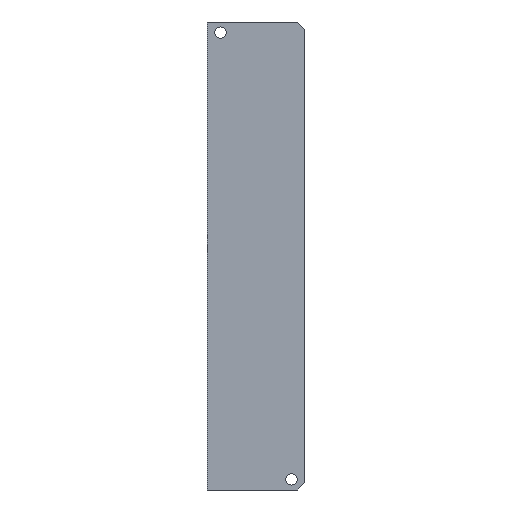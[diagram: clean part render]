
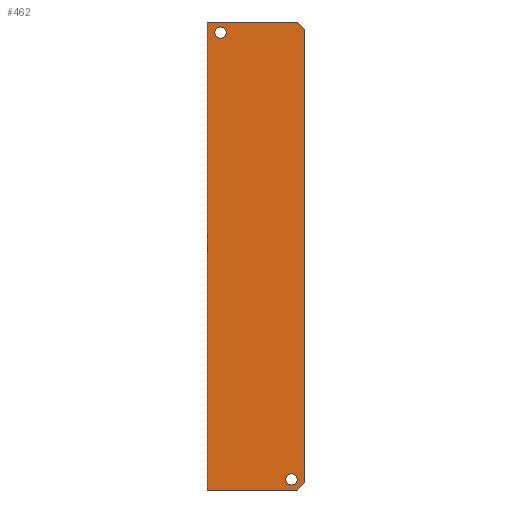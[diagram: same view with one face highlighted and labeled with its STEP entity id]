
A CAD part, front view. The second image highlights one B-rep face of the part: STEP entity #462.
In plain terms, the highlighted planar face has unit normal (0, -1, 0).
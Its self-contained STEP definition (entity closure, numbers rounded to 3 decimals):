
#10 = CIRCLE ( 'NONE', #263, 1.6 ) ;
#15 = FACE_OUTER_BOUND ( 'NONE', #418, .T. ) ;
#20 = VERTEX_POINT ( 'NONE', #155 ) ;
#23 = EDGE_CURVE ( 'NONE', #313, #20, #225, .T. ) ;
#25 = LINE ( 'NONE', #181, #399 ) ;
#35 = VERTEX_POINT ( 'NONE', #115 ) ;
#38 = CARTESIAN_POINT ( 'NONE',  ( 23.75, 0., -129. ) ) ;
#39 = VECTOR ( 'NONE', #463, 1000. ) ;
#40 = CARTESIAN_POINT ( 'NONE',  ( 3.75, 0., -4.6 ) ) ;
#55 = VECTOR ( 'NONE', #392, 1000. ) ;
#57 = EDGE_CURVE ( 'NONE', #191, #406, #139, .T. ) ;
#66 = EDGE_CURVE ( 'NONE', #20, #35, #25, .T. ) ;
#67 = CARTESIAN_POINT ( 'NONE',  ( 3.75, 0., -3. ) ) ;
#69 = VERTEX_POINT ( 'NONE', #149 ) ;
#89 = CARTESIAN_POINT ( 'NONE',  ( 25.5, 0., -132. ) ) ;
#94 = EDGE_CURVE ( 'NONE', #173, #69, #10, .T. ) ;
#95 = VECTOR ( 'NONE', #381, 1000. ) ;
#96 = DIRECTION ( 'NONE',  ( 0., 0., -1. ) ) ;
#98 = CARTESIAN_POINT ( 'NONE',  ( 0., 0., -132. ) ) ;
#102 = ORIENTED_EDGE ( 'NONE', *, *, #165, .T. ) ;
#104 = CIRCLE ( 'NONE', #419, 1.6 ) ;
#106 = DIRECTION ( 'NONE',  ( 1., 0., 0. ) ) ;
#115 = CARTESIAN_POINT ( 'NONE',  ( 27.5, 0., -2. ) ) ;
#134 = DIRECTION ( 'NONE',  ( 0., 0., 1. ) ) ;
#139 = CIRCLE ( 'NONE', #424, 1.6 ) ;
#143 = ORIENTED_EDGE ( 'NONE', *, *, #473, .T. ) ;
#149 = CARTESIAN_POINT ( 'NONE',  ( 23.75, 0., -127.4 ) ) ;
#155 = CARTESIAN_POINT ( 'NONE',  ( 27.5, 0., -130. ) ) ;
#162 = CARTESIAN_POINT ( 'NONE',  ( 0., 0., -132. ) ) ;
#165 = EDGE_CURVE ( 'NONE', #368, #313, #193, .T. ) ;
#173 = VERTEX_POINT ( 'NONE', #385 ) ;
#174 = CARTESIAN_POINT ( 'NONE',  ( 3.75, 0., -3. ) ) ;
#181 = CARTESIAN_POINT ( 'NONE',  ( 27.5, 0., -132. ) ) ;
#191 = VERTEX_POINT ( 'NONE', #496 ) ;
#193 = LINE ( 'NONE', #311, #95 ) ;
#198 = DIRECTION ( 'NONE',  ( 0., 1., 0. ) ) ;
#201 = ORIENTED_EDGE ( 'NONE', *, *, #204, .F. ) ;
#204 = EDGE_CURVE ( 'NONE', #446, #369, #304, .T. ) ;
#207 = DIRECTION ( 'NONE',  ( 0., -1., 0. ) ) ;
#220 = ORIENTED_EDGE ( 'NONE', *, *, #408, .T. ) ;
#221 = DIRECTION ( 'NONE',  ( 0., 1., 0. ) ) ;
#225 = LINE ( 'NONE', #309, #39 ) ;
#227 = CIRCLE ( 'NONE', #266, 1.6 ) ;
#235 = CARTESIAN_POINT ( 'NONE',  ( 23.75, 0., -129. ) ) ;
#251 = ORIENTED_EDGE ( 'NONE', *, *, #57, .T. ) ;
#254 = VECTOR ( 'NONE', #106, 1000. ) ;
#259 = ORIENTED_EDGE ( 'NONE', *, *, #94, .T. ) ;
#263 = AXIS2_PLACEMENT_3D ( 'NONE', #235, #198, #318 ) ;
#266 = AXIS2_PLACEMENT_3D ( 'NONE', #38, #468, #352 ) ;
#288 = FACE_BOUND ( 'NONE', #377, .T. ) ;
#290 = FACE_BOUND ( 'NONE', #297, .T. ) ;
#295 = AXIS2_PLACEMENT_3D ( 'NONE', #433, #207, #96 ) ;
#297 = EDGE_LOOP ( 'NONE', ( #251, #485 ) ) ;
#304 = LINE ( 'NONE', #451, #254 ) ;
#309 = CARTESIAN_POINT ( 'NONE',  ( 12.75, 0., -144.75 ) ) ;
#311 = CARTESIAN_POINT ( 'NONE',  ( 0., 0., -132. ) ) ;
#313 = VERTEX_POINT ( 'NONE', #89 ) ;
#318 = DIRECTION ( 'NONE',  ( 0., 0., 1. ) ) ;
#330 = DIRECTION ( 'NONE',  ( 0., 1., 0. ) ) ;
#332 = VECTOR ( 'NONE', #134, 1000. ) ;
#343 = ORIENTED_EDGE ( 'NONE', *, *, #23, .T. ) ;
#348 = CARTESIAN_POINT ( 'NONE',  ( 25.5, 0., 0. ) ) ;
#352 = DIRECTION ( 'NONE',  ( 0., 0., 1. ) ) ;
#366 = EDGE_CURVE ( 'NONE', #406, #191, #104, .T. ) ;
#367 = CARTESIAN_POINT ( 'NONE',  ( 78.75, 0., -53.25 ) ) ;
#368 = VERTEX_POINT ( 'NONE', #98 ) ;
#369 = VERTEX_POINT ( 'NONE', #348 ) ;
#375 = DIRECTION ( 'NONE',  ( 0., 0., 1. ) ) ;
#377 = EDGE_LOOP ( 'NONE', ( #220, #259 ) ) ;
#381 = DIRECTION ( 'NONE',  ( 1., 0., 0. ) ) ;
#385 = CARTESIAN_POINT ( 'NONE',  ( 23.75, 0., -130.6 ) ) ;
#392 = DIRECTION ( 'NONE',  ( -0.707, 0., 0.707 ) ) ;
#396 = ORIENTED_EDGE ( 'NONE', *, *, #443, .F. ) ;
#399 = VECTOR ( 'NONE', #497, 1000. ) ;
#406 = VERTEX_POINT ( 'NONE', #40 ) ;
#408 = EDGE_CURVE ( 'NONE', #69, #173, #227, .T. ) ;
#418 = EDGE_LOOP ( 'NONE', ( #102, #343, #500, #143, #201, #396 ) ) ;
#419 = AXIS2_PLACEMENT_3D ( 'NONE', #174, #330, #442 ) ;
#424 = AXIS2_PLACEMENT_3D ( 'NONE', #67, #221, #375 ) ;
#429 = CARTESIAN_POINT ( 'NONE',  ( 0., 0., 0. ) ) ;
#433 = CARTESIAN_POINT ( 'NONE',  ( 0., 0., -132. ) ) ;
#442 = DIRECTION ( 'NONE',  ( 0., 0., 1. ) ) ;
#443 = EDGE_CURVE ( 'NONE', #368, #446, #472, .T. ) ;
#446 = VERTEX_POINT ( 'NONE', #429 ) ;
#451 = CARTESIAN_POINT ( 'NONE',  ( 0., 0., 0. ) ) ;
#462 = ADVANCED_FACE ( 'NONE', ( #290, #288, #15 ), #482, .T. ) ;
#463 = DIRECTION ( 'NONE',  ( 0.707, 0., 0.707 ) ) ;
#468 = DIRECTION ( 'NONE',  ( 0., 1., 0. ) ) ;
#472 = LINE ( 'NONE', #162, #332 ) ;
#473 = EDGE_CURVE ( 'NONE', #35, #369, #475, .T. ) ;
#475 = LINE ( 'NONE', #367, #55 ) ;
#482 = PLANE ( 'NONE',  #295 ) ;
#485 = ORIENTED_EDGE ( 'NONE', *, *, #366, .T. ) ;
#496 = CARTESIAN_POINT ( 'NONE',  ( 3.75, 0., -1.4 ) ) ;
#497 = DIRECTION ( 'NONE',  ( 0., 0., 1. ) ) ;
#500 = ORIENTED_EDGE ( 'NONE', *, *, #66, .T. ) ;
